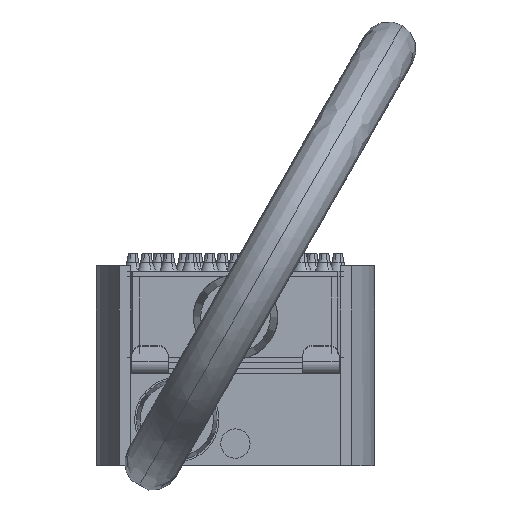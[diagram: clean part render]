
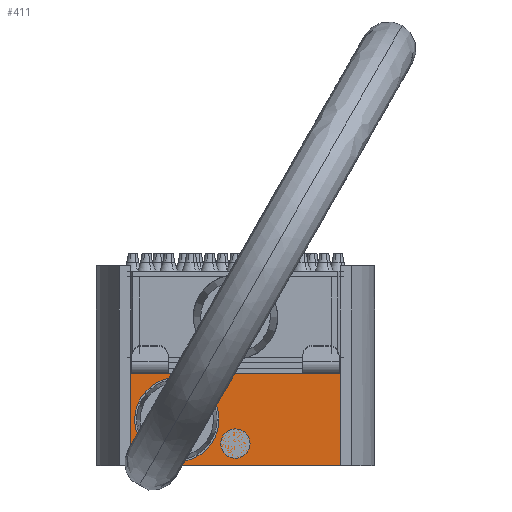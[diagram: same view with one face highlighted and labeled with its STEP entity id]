
A CAD part, front view. The second image highlights one B-rep face of the part: STEP entity #411.
In plain terms, the highlighted planar face has unit normal (0, -1, 0).
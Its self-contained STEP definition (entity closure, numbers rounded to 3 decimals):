
#356=DIRECTION('',(0.,0.,1.));
#357=VECTOR('',#356,25.);
#358=CARTESIAN_POINT('',(-28.561,-21.,-1.5));
#359=LINE('',#358,#357);
#360=DIRECTION('',(1.,0.,0.));
#361=VECTOR('',#360,57.121);
#362=CARTESIAN_POINT('',(-28.561,-21.,23.5));
#363=LINE('',#362,#361);
#364=DIRECTION('',(0.,0.,-1.));
#365=VECTOR('',#364,25.);
#366=CARTESIAN_POINT('',(28.561,-21.,23.5));
#367=LINE('',#366,#365);
#376=DIRECTION('',(-1.,0.,0.));
#377=VECTOR('',#376,57.121);
#378=CARTESIAN_POINT('',(28.561,-21.,-1.5));
#379=LINE('',#378,#377);
#384=CARTESIAN_POINT('',(28.561,-21.,-1.5));
#386=VERTEX_POINT('',#384);
#388=CARTESIAN_POINT('',(28.561,-21.,23.5));
#389=VERTEX_POINT('',#388);
#390=CARTESIAN_POINT('',(-28.561,-21.,23.5));
#391=VERTEX_POINT('',#390);
#392=CARTESIAN_POINT('',(-28.561,-21.,-1.5));
#394=VERTEX_POINT('',#392);
#396=CARTESIAN_POINT('',(0.,-21.,11.));
#397=DIRECTION('',(0.,-1.,0.));
#398=DIRECTION('',(1.,0.,0.));
#399=AXIS2_PLACEMENT_3D('',#396,#397,#398);
#400=PLANE('',#399);
#402=ORIENTED_EDGE('',*,*,#401,.T.);
#404=ORIENTED_EDGE('',*,*,#403,.T.);
#406=ORIENTED_EDGE('',*,*,#405,.T.);
#408=ORIENTED_EDGE('',*,*,#407,.T.);
#409=EDGE_LOOP('',(#402,#404,#406,#408));
#410=FACE_OUTER_BOUND('',#409,.F.);
#411=ADVANCED_FACE('',(#410),#400,.T.);
#401=EDGE_CURVE('',#394,#391,#359,.T.);
#403=EDGE_CURVE('',#391,#389,#363,.T.);
#405=EDGE_CURVE('',#389,#386,#367,.T.);
#407=EDGE_CURVE('',#386,#394,#379,.T.);
